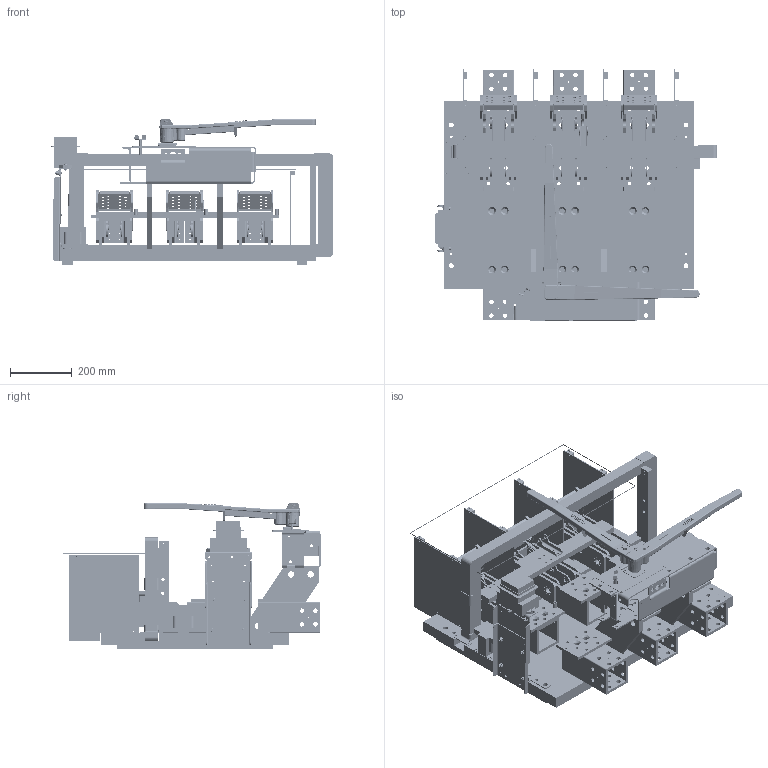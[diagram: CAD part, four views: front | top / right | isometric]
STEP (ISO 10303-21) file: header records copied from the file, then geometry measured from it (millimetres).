
FILE_DESCRIPTION(/* description */ (''),/* implementation_level */ '2;1');
FILE_NAME(/* name */ 'H:\switches\3d-templates\catalog-switches-iges-files\CATALOG-SL3613G5.stp',/* time_stamp */ '2022-03-21T13:46:40-05:00',/* author */ ('MKingston'),/* organization */ (''),/* preprocessor_version */ 'ST-DEVELOPER v18.1',/* originating_system */ 'Autodesk Inventor 2022',/* authorisation */ '');
FILE_SCHEMA (('AUTOMOTIVE_DESIGN { 1 0 10303 214 3 1 1 }'));
Products named in the file (60): CATALOG-SL3613; 701; 708-arc-chute-assy; 50-ql; 50-qr; 709; 702; 703; 704; 248-A; CATALOG-4000-blade-assy; 705-b; 705-a; 705-c; 67-j; 69-gc3; 69-gd3; 67-fc3; 236-b; 50-g; 255-q; sl-interpole-barrier-assy; 255-p; 178-c; 178-b; 672-a; 221-kpa; 452; 481-a; gfr-1-mounting-assembly; 277-L1T; 277-l2; 277-l3; 277-l4; gfr-1; Bolted Connection; ANSI B18.6.3 - 10 - 32 x 7/8 SR HMS; ANSI B18.22.1 - No. 10 - Type A; ASME B18.21.1 - No. 10. Carbon Steel, ETLWTB(1); ANSI B18.2.2 - 10 - 32, HMSNI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
Assembly tree (114 placements, depth 4):
  CATALOG-SL3613
    701  x3
    708-arc-chute-assy  x3
      50-ql
      50-qr
      709
    702  x3
    703  x3
    704  x6
    248-A  x2
    CATALOG-4000-blade-assy  x3
      705-c
      705-b
      67-j
      705-a
      67-fc3
      69-gc3
      69-gd3
    236-b
    50-g
    sl-interpole-barrier-assy  x4
      255-p
      178-b
      178-c
    255-q
    672-a  x2
    221-kpa
    452
    481-a
    gfr-1-mounting-assembly
      277-L1T
      277-l2
      277-l3
      277-l4
      gfr-1
      Bolted Connection
        ANSI B18.22.1 - No. 10 - Type A  x4
        ASME B18.21.1 - No. 10. Carbon Steel, ETLWTB(1)  x4
        ANSI B18.6.3 - 10 - 32 x 7/8 SR HMS  x2
        ANSI B18.2.2 - 10 - 32, HMSNI  x2
      Bolted Connection_1
        ANSI B18.5 - 1/4-20 UNC - 0.75, RHBI  x6
        ASTM F436 - 1/4, CW  x6
        ASME B18.21.1 - 1/4. Carbon Steel, HITLWTB(1)  x6
        ANSI B18.2.2 - 1/4 - 20, HNI  x6
    sl-slb-gfi-ring-assembly
      GFS10X30
      277-ma
    800-bck2
    800-fck-1
    transformer
    675-ja
    672-E
    67-ZBA  x3
    sl3613.Harness2
      sl3613.Harness2_1
    223-FE
    223-d-transparent
    223-d-transparent-red
    727SLG6
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Bounding box: 915.97 x 836.4 x 472.64 mm (x, y, z)
Volume: 35905969.1 mm3; surface area: 5852501.5 mm2
Topology: 150 solids, 151 shells, 5021 faces, 13174 edges, 8585 vertices
Faces by surface type: plane 2385, cylinder 2194, cone 225, bspline 147, torus 62, sphere 8
Full cylindrical faces by diameter (mm): 1.702 x8, 3.302 x14, 3.581 x2, 3.658 x22, 3.683 x8, 3.962 x11, 4.089 x4, 4.343 x84, 4.366 x2, 4.496 x36, 4.653 x4, 4.762 x4, 4.775 x8, 4.801 x8, 4.826 x2, 4.902 x14, 4.915 x16, 4.953 x4, 4.978 x36, 5.462 x4, 5.537 x3, 5.556 x3, 5.563 x10, 5.791 x12, 6.35 x20, 6.528 x47, 7.137 x8, 7.144 x28, 7.798 x4, 7.938 x7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
Entity records: 91481 total; most frequent: CARTESIAN_POINT 23784, DIRECTION 13511, ORIENTED_EDGE 13268, EDGE_CURVE 6642, AXIS2_PLACEMENT_3D 4789, VERTEX_POINT 4304, LINE 3933, VECTOR 3933
